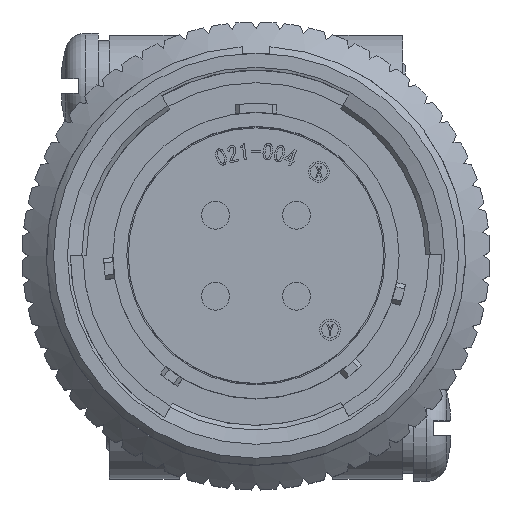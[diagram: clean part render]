
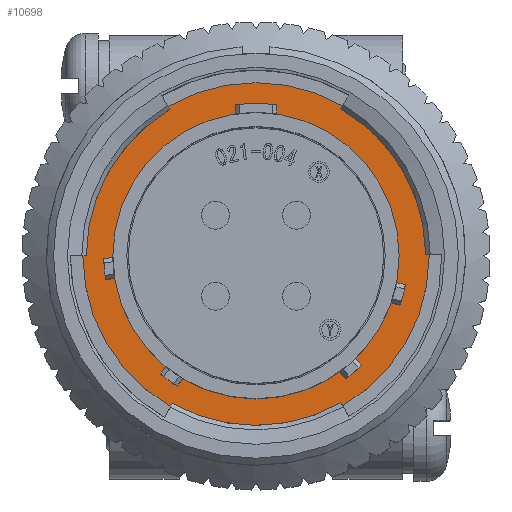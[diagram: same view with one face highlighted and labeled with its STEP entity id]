
A CAD part, top view. The second image highlights one B-rep face of the part: STEP entity #10698.
In plain terms, the highlighted planar face has unit normal (0, 0, 1).
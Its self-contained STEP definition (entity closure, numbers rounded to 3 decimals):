
#1458 = CARTESIAN_POINT ( 'NONE',  ( 0., 0., -10.1 ) ) ;
#1850 = DIRECTION ( 'NONE',  ( 1., 0., 0. ) ) ;
#3305 = AXIS2_PLACEMENT_3D ( 'NONE', #1458, #8448, #3750 ) ;
#3612 = DIRECTION ( 'NONE',  ( 1., 0., 0. ) ) ;
#3750 = DIRECTION ( 'NONE',  ( 1., 0., 0. ) ) ;
#4766 = CARTESIAN_POINT ( 'NONE',  ( 10.25, 0., -10.1 ) ) ;
#6249 = EDGE_CURVE ( 'NONE', #13826, #13826, #22839, .T. ) ;
#6301 = EDGE_CURVE ( 'NONE', #9566, #9566, #20014, .T. ) ;
#6759 = CARTESIAN_POINT ( 'NONE',  ( 0., 0., -10.1 ) ) ;
#8448 = DIRECTION ( 'NONE',  ( 0., 0., 1. ) ) ;
#9204 = FACE_OUTER_BOUND ( 'NONE', #12380, .T. ) ;
#9566 = VERTEX_POINT ( 'NONE', #4766 ) ;
#10441 = DIRECTION ( 'NONE',  ( 0., 0., 1. ) ) ;
#10698 = ADVANCED_FACE ( 'NONE', ( #26518, #9204 ), #28284, .T. ) ;
#12380 = EDGE_LOOP ( 'NONE', ( #27574 ) ) ;
#13495 = DIRECTION ( 'NONE',  ( 0., 0., 1. ) ) ;
#13826 = VERTEX_POINT ( 'NONE', #15850 ) ;
#15850 = CARTESIAN_POINT ( 'NONE',  ( 12.4, 0., -10.1 ) ) ;
#16013 = AXIS2_PLACEMENT_3D ( 'NONE', #6759, #13495, #1850 ) ;
#17577 = AXIS2_PLACEMENT_3D ( 'NONE', #28585, #10441, #3612 ) ;
#20014 = CIRCLE ( 'NONE', #16013, 10.25 ) ;
#22839 = CIRCLE ( 'NONE', #3305, 12.4 ) ;
#25329 = EDGE_LOOP ( 'NONE', ( #25602 ) ) ;
#25602 = ORIENTED_EDGE ( 'NONE', *, *, #6301, .F. ) ;
#26518 = FACE_BOUND ( 'NONE', #25329, .T. ) ;
#27574 = ORIENTED_EDGE ( 'NONE', *, *, #6249, .T. ) ;
#28284 = PLANE ( 'NONE',  #17577 ) ;
#28585 = CARTESIAN_POINT ( 'NONE',  ( 0., 0., -10.1 ) ) ;
